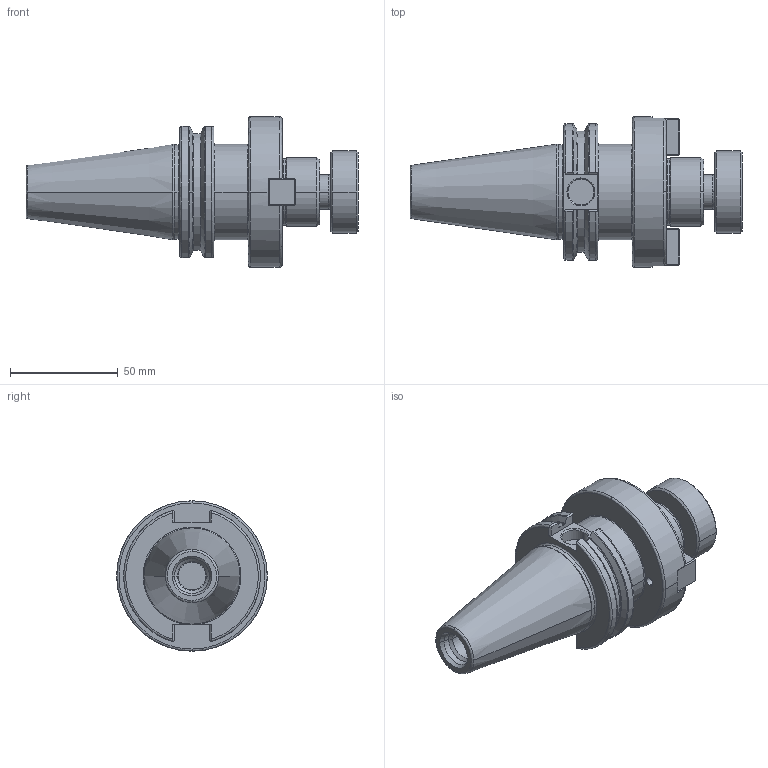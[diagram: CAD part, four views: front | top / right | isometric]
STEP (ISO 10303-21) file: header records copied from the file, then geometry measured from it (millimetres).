
FILE_DESCRIPTION (( 'STEP AP214' ), '1' );
FILE_NAME ('04-0913.STEP', '2022-08-31T21:26:22', ( '' ), ( '' ), 'SwSTEP 2.0', 'SolidWorks 2021', '' );
FILE_SCHEMA (( 'AUTOMOTIVE_DESIGN' ));
Length unit declared in the file: inch
Products named in the file (1): 04-0913
Bounding box: 154.2 x 69.85 x 69.85 mm (x, y, z)
Volume: 212207.1 mm3; surface area: 42187.3 mm2
Topology: 2 solids, 4 shells, 312 faces, 780 edges, 475 vertices
Faces by surface type: plane 132, cylinder 63, cone 61, bspline 56
Entity records: 17059 total; most frequent: CARTESIAN_POINT 5796, ORIENTED_EDGE 1548, DIRECTION 1426, EDGE_CURVE 774, AXIS2_PLACEMENT_3D 521, VERTEX_POINT 475, LINE 384, VECTOR 384
